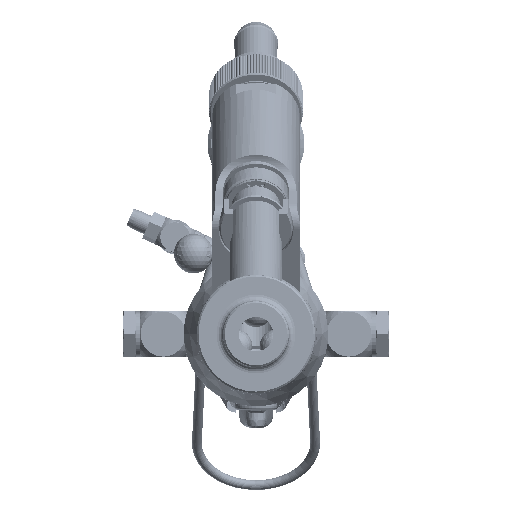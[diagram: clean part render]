
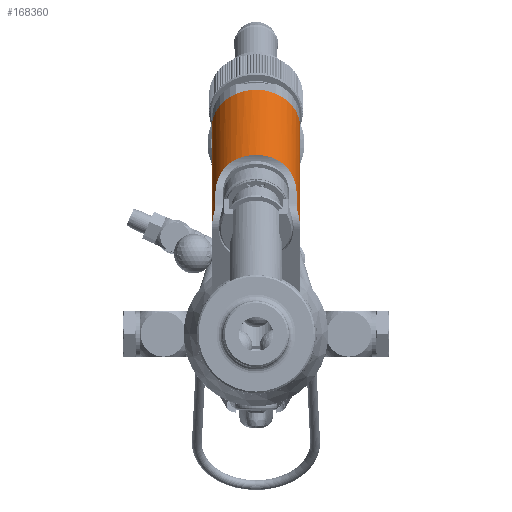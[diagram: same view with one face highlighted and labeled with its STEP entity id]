
A CAD part, left-side view. The second image highlights one B-rep face of the part: STEP entity #168360.
In plain terms, the highlighted cylindrical face has radius 13.5 mm (diameter 27 mm), a partial arc.
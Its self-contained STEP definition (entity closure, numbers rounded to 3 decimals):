
#11455=LINE($,#267396,#21372);
#11468=LINE($,#267485,#21385);
#11470=LINE($,#267490,#21387);
#11489=LINE($,#267583,#21406);
#11514=LINE($,#267701,#21431);
#11515=LINE($,#267703,#21432);
#21372=VECTOR($,#206987,50.9);
#21385=VECTOR($,#207006,7.82);
#21387=VECTOR($,#207010,7.82);
#21406=VECTOR($,#207063,50.9);
#21431=VECTOR($,#207144,9.);
#21432=VECTOR($,#207145,9.);
#33390=B_SPLINE_CURVE_WITH_KNOTS($,3,(#267446,#267447,#267448,#267449,#267450,
#267451,#267452,#267453,#267454,#267455,#267456,#267457,#267458,#267459,
#267460,#267461),.UNSPECIFIED.,.F.,.F.,(4,2,2,2,2,2,2,4),(-1.9,
-1.587,-1.274,-1.098,-0.923,
-0.461,-0.231,0.),.UNSPECIFIED.);
#33391=B_SPLINE_CURVE_WITH_KNOTS($,3,(#267463,#267464,#267465,#267466,#267467,
#267468,#267469,#267470,#267471,#267472,#267473,#267474,#267475,#267476,
#267477,#267478),.UNSPECIFIED.,.F.,.F.,(4,2,2,2,2,2,2,4),(0.,0.231,
0.461,0.923,1.098,1.274,1.587,
1.9),.UNSPECIFIED.);
#33393=B_SPLINE_CURVE_WITH_KNOTS($,3,(#267505,#267506,#267507,#267508,#267509,
#267510,#267511,#267512,#267513,#267514),.UNSPECIFIED.,.F.,.F.,(4,2,2,2,
4),(0.839,1.049,1.259,1.469,
1.679),.UNSPECIFIED.);
#33395=B_SPLINE_CURVE_WITH_KNOTS($,3,(#267528,#267529,#267530,#267531,#267532,
#267533,#267534,#267535,#267536,#267537),.UNSPECIFIED.,.F.,.F.,(4,2,2,2,
4),(1.679,1.889,2.099,2.309,
2.518),.UNSPECIFIED.);
#48352=FACE_OUTER_BOUND($,#59432,.T.);
#59432=EDGE_LOOP($,(#127553,#127554,#127555,#127556,#127557,#127558,#127559,
#127560,#127561,#127562,#127563,#127564,#127565));
#70332=CIRCLE($,#181398,13.5);
#70335=CIRCLE($,#181402,13.5);
#70336=CIRCLE($,#181403,13.5);
#78493=VERTEX_POINT($,#267393);
#78494=VERTEX_POINT($,#267395);
#78504=VERTEX_POINT($,#267443);
#78505=VERTEX_POINT($,#267445);
#78506=VERTEX_POINT($,#267462);
#78508=VERTEX_POINT($,#267483);
#78510=VERTEX_POINT($,#267489);
#78513=VERTEX_POINT($,#267527);
#78525=VERTEX_POINT($,#267575);
#78551=VERTEX_POINT($,#267688);
#78552=VERTEX_POINT($,#267690);
#78556=VERTEX_POINT($,#267700);
#78557=VERTEX_POINT($,#267702);
#96814=EDGE_CURVE($,#78494,#78493,#11455,.T.);
#96826=EDGE_CURVE($,#78504,#78505,#33390,.T.);
#96827=EDGE_CURVE($,#78505,#78506,#33391,.T.);
#96831=EDGE_CURVE($,#78508,#78504,#11468,.T.);
#96833=EDGE_CURVE($,#78506,#78510,#11470,.T.);
#96837=EDGE_CURVE($,#78494,#78508,#33393,.T.);
#96839=EDGE_CURVE($,#78510,#78513,#33395,.T.);
#96863=EDGE_CURVE($,#78513,#78525,#11489,.T.);
#96897=EDGE_CURVE($,#78551,#78552,#70332,.T.);
#96902=EDGE_CURVE($,#78556,#78552,#11514,.T.);
#96903=EDGE_CURVE($,#78551,#78557,#11515,.T.);
#96904=EDGE_CURVE($,#78525,#78557,#70335,.T.);
#96905=EDGE_CURVE($,#78556,#78493,#70336,.T.);
#127553=ORIENTED_EDGE($,*,*,#96902,.T.);
#127554=ORIENTED_EDGE($,*,*,#96897,.F.);
#127555=ORIENTED_EDGE($,*,*,#96903,.T.);
#127556=ORIENTED_EDGE($,*,*,#96904,.F.);
#127557=ORIENTED_EDGE($,*,*,#96863,.F.);
#127558=ORIENTED_EDGE($,*,*,#96839,.F.);
#127559=ORIENTED_EDGE($,*,*,#96833,.F.);
#127560=ORIENTED_EDGE($,*,*,#96827,.F.);
#127561=ORIENTED_EDGE($,*,*,#96826,.F.);
#127562=ORIENTED_EDGE($,*,*,#96831,.F.);
#127563=ORIENTED_EDGE($,*,*,#96837,.F.);
#127564=ORIENTED_EDGE($,*,*,#96814,.T.);
#127565=ORIENTED_EDGE($,*,*,#96905,.F.);
#164365=CYLINDRICAL_SURFACE($,#181401,13.5);
#168360=ADVANCED_FACE($,(#48352),#164365,.T.);
#181398=AXIS2_PLACEMENT_3D($,#267691,#207134,#207135);
#181401=AXIS2_PLACEMENT_3D($,#267699,#207142,#207143);
#181402=AXIS2_PLACEMENT_3D($,#267704,#207146,#207147);
#181403=AXIS2_PLACEMENT_3D($,#267705,#207148,#207149);
#206987=DIRECTION($,(0.857,0.,0.515));
#207006=DIRECTION($,(0.857,0.,0.515));
#207010=DIRECTION($,(-0.857,0.,-0.515));
#207063=DIRECTION($,(0.857,0.,0.515));
#207134=DIRECTION('center_axis',(0.857,0.,
0.515));
#207135=DIRECTION('ref_axis',(0.,1.,0.));
#207142=DIRECTION('center_axis',(-0.857,0.,
-0.515));
#207143=DIRECTION('ref_axis',(0.,1.,0.));
#207144=DIRECTION($,(0.857,0.,0.515));
#207145=DIRECTION($,(-0.857,0.,-0.515));
#207146=DIRECTION('center_axis',(-0.857,0.,
-0.515));
#207147=DIRECTION('ref_axis',(0.,1.,0.));
#207148=DIRECTION('center_axis',(-0.857,0.,
-0.515));
#207149=DIRECTION('ref_axis',(0.,1.,0.));
#267393=CARTESIAN_POINT('',(181.421,-13.5,58.193));
#267395=CARTESIAN_POINT('',(137.791,-13.5,31.977));
#267396=CARTESIAN_POINT($,(137.791,-13.5,31.977));
#267443=CARTESIAN_POINT('',(146.376,-12.329,43.552));
#267445=CARTESIAN_POINT('',(149.113,0.,54.53));
#267446=CARTESIAN_POINT('Ctrl Pts',(146.376,-12.329,
43.552));
#267447=CARTESIAN_POINT('Ctrl Pts',(147.271,-12.329,44.09));
#267448=CARTESIAN_POINT('Ctrl Pts',(148.103,-12.238,
44.845));
#267449=CARTESIAN_POINT('Ctrl Pts',(149.364,-11.808,
46.586));
#267450=CARTESIAN_POINT('Ctrl Pts',(149.792,-11.458,
47.57));
#267451=CARTESIAN_POINT('Ctrl Pts',(150.144,-10.725,
48.98));
#267452=CARTESIAN_POINT('Ctrl Pts',(150.222,-10.392,
49.521));
#267453=CARTESIAN_POINT('Ctrl Pts',(150.271,-9.629,
50.535));
#267454=CARTESIAN_POINT('Ctrl Pts',(150.243,-9.196,
51.008));
#267455=CARTESIAN_POINT('Ctrl Pts',(150.063,-7.645,
52.446));
#267456=CARTESIAN_POINT('Ctrl Pts',(149.752,-6.24,53.26));
#267457=CARTESIAN_POINT('Ctrl Pts',(149.391,-3.949,
54.038));
#267458=CARTESIAN_POINT('Ctrl Pts',(149.287,-3.156,
54.227));
#267459=CARTESIAN_POINT('Ctrl Pts',(149.148,-1.566,54.473));
#267460=CARTESIAN_POINT('Ctrl Pts',(149.113,-0.769,
54.53));
#267461=CARTESIAN_POINT('Ctrl Pts',(149.113,0.,
54.53));
#267462=CARTESIAN_POINT('',(146.376,12.329,43.552));
#267463=CARTESIAN_POINT('Ctrl Pts',(149.113,0.,
54.53));
#267464=CARTESIAN_POINT('Ctrl Pts',(149.113,0.769,54.53));
#267465=CARTESIAN_POINT('Ctrl Pts',(149.148,1.566,54.473));
#267466=CARTESIAN_POINT('Ctrl Pts',(149.287,3.156,54.227));
#267467=CARTESIAN_POINT('Ctrl Pts',(149.391,3.949,54.038));
#267468=CARTESIAN_POINT('Ctrl Pts',(149.752,6.24,53.26));
#267469=CARTESIAN_POINT('Ctrl Pts',(150.063,7.645,52.446));
#267470=CARTESIAN_POINT('Ctrl Pts',(150.243,9.196,51.008));
#267471=CARTESIAN_POINT('Ctrl Pts',(150.271,9.629,50.535));
#267472=CARTESIAN_POINT('Ctrl Pts',(150.222,10.392,49.521));
#267473=CARTESIAN_POINT('Ctrl Pts',(150.144,10.725,48.98));
#267474=CARTESIAN_POINT('Ctrl Pts',(149.792,11.458,47.57));
#267475=CARTESIAN_POINT('Ctrl Pts',(149.364,11.808,46.586));
#267476=CARTESIAN_POINT('Ctrl Pts',(148.103,12.238,44.845));
#267477=CARTESIAN_POINT('Ctrl Pts',(147.271,12.329,44.09));
#267478=CARTESIAN_POINT('Ctrl Pts',(146.376,12.329,43.552));
#267483=CARTESIAN_POINT('',(139.673,-12.329,39.525));
#267485=CARTESIAN_POINT($,(139.673,-12.329,39.525));
#267489=CARTESIAN_POINT('',(139.673,12.329,39.525));
#267490=CARTESIAN_POINT($,(146.376,12.329,43.552));
#267505=CARTESIAN_POINT('Ctrl Pts',(137.791,-13.5,
31.977));
#267506=CARTESIAN_POINT('Ctrl Pts',(137.431,-13.5,
32.577));
#267507=CARTESIAN_POINT('Ctrl Pts',(137.171,-13.44,
33.284));
#267508=CARTESIAN_POINT('Ctrl Pts',(136.957,-13.226,
34.734));
#267509=CARTESIAN_POINT('Ctrl Pts',(137.003,-13.073,
35.477));
#267510=CARTESIAN_POINT('Ctrl Pts',(137.334,-12.782,
36.805));
#267511=CARTESIAN_POINT('Ctrl Pts',(137.643,-12.623,
37.482));
#267512=CARTESIAN_POINT('Ctrl Pts',(138.511,-12.395,38.662));
#267513=CARTESIAN_POINT('Ctrl Pts',(139.073,-12.329,
39.164));
#267514=CARTESIAN_POINT('Ctrl Pts',(139.673,-12.329,
39.525));
#267527=CARTESIAN_POINT('',(137.791,13.5,31.977));
#267528=CARTESIAN_POINT('Ctrl Pts',(139.673,12.329,39.525));
#267529=CARTESIAN_POINT('Ctrl Pts',(139.073,12.329,39.164));
#267530=CARTESIAN_POINT('Ctrl Pts',(138.511,12.395,38.662));
#267531=CARTESIAN_POINT('Ctrl Pts',(137.643,12.623,37.482));
#267532=CARTESIAN_POINT('Ctrl Pts',(137.334,12.782,36.805));
#267533=CARTESIAN_POINT('Ctrl Pts',(137.003,13.073,35.477));
#267534=CARTESIAN_POINT('Ctrl Pts',(136.957,13.226,34.734));
#267535=CARTESIAN_POINT('Ctrl Pts',(137.171,13.44,33.284));
#267536=CARTESIAN_POINT('Ctrl Pts',(137.431,13.5,32.577));
#267537=CARTESIAN_POINT('Ctrl Pts',(137.791,13.5,31.977));
#267575=CARTESIAN_POINT('',(181.421,13.5,58.193));
#267583=CARTESIAN_POINT($,(137.791,13.5,31.977));
#267688=CARTESIAN_POINT('',(195.922,-2.934,51.533));
#267690=CARTESIAN_POINT('',(195.306,-6.223,52.559));
#267691=CARTESIAN_POINT('Origin',(189.135,0.,
62.828));
#267699=CARTESIAN_POINT('Origin',(189.135,0.,
62.828));
#267700=CARTESIAN_POINT('',(187.591,-6.223,47.924));
#267701=CARTESIAN_POINT($,(187.591,-6.223,47.924));
#267702=CARTESIAN_POINT('',(188.208,-2.934,46.898));
#267703=CARTESIAN_POINT($,(195.922,-2.934,51.533));
#267704=CARTESIAN_POINT('Origin',(181.421,0.,
58.193));
#267705=CARTESIAN_POINT('Origin',(181.421,0.,
58.193));
